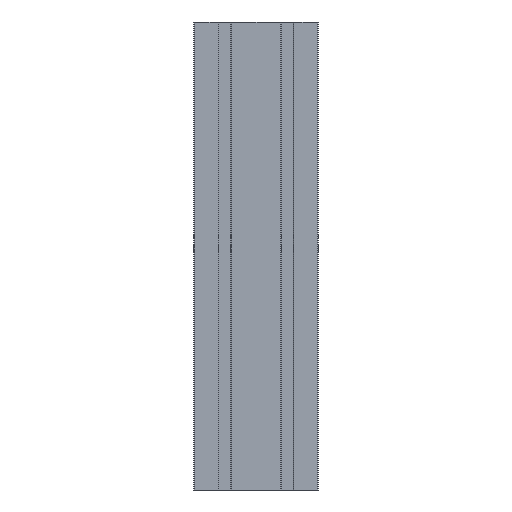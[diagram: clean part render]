
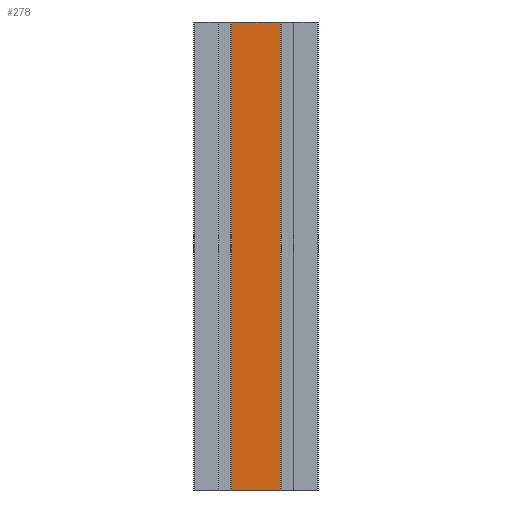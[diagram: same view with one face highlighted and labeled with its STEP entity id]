
A CAD part, front view. The second image highlights one B-rep face of the part: STEP entity #278.
In plain terms, the highlighted planar face has unit normal (0, -1, 0).
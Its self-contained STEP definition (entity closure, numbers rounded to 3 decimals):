
#64 = PLANE ( 'NONE',  #2439 ) ;
#230 = EDGE_CURVE ( 'NONE', #3836, #3080, #1386, .T. ) ;
#278 = ADVANCED_FACE ( 'NONE', ( #2946 ), #64, .F. ) ;
#430 = ORIENTED_EDGE ( 'NONE', *, *, #2381, .T. ) ;
#534 = EDGE_CURVE ( 'NONE', #2770, #1148, #2170, .T. ) ;
#577 = DIRECTION ( 'NONE',  ( 0., 0., -1. ) ) ;
#984 = CARTESIAN_POINT ( 'NONE',  ( -15.7, -10., 150. ) ) ;
#1148 = VERTEX_POINT ( 'NONE', #3043 ) ;
#1169 = CARTESIAN_POINT ( 'NONE',  ( 15.7, -10., 150. ) ) ;
#1191 = EDGE_CURVE ( 'NONE', #3836, #2770, #2447, .T. ) ;
#1239 = VECTOR ( 'NONE', #1359, 1000. ) ;
#1320 = VECTOR ( 'NONE', #1485, 1000. ) ;
#1359 = DIRECTION ( 'NONE',  ( 0., 0., -1. ) ) ;
#1386 = LINE ( 'NONE', #984, #2355 ) ;
#1485 = DIRECTION ( 'NONE',  ( 1., 0., 0. ) ) ;
#1637 = DIRECTION ( 'NONE',  ( 1., 0., 0. ) ) ;
#1769 = CARTESIAN_POINT ( 'NONE',  ( 15.7, -10., 150. ) ) ;
#1872 = CARTESIAN_POINT ( 'NONE',  ( -15.7, -10., 150. ) ) ;
#1889 = CARTESIAN_POINT ( 'NONE',  ( -15.7, -10., -150. ) ) ;
#2034 = CARTESIAN_POINT ( 'NONE',  ( -15.7, -10., 150. ) ) ;
#2170 = LINE ( 'NONE', #1769, #1239 ) ;
#2226 = ORIENTED_EDGE ( 'NONE', *, *, #534, .F. ) ;
#2262 = CARTESIAN_POINT ( 'NONE',  ( -15.7, -10., -150. ) ) ;
#2288 = LINE ( 'NONE', #1889, #1320 ) ;
#2355 = VECTOR ( 'NONE', #577, 1000. ) ;
#2381 = EDGE_CURVE ( 'NONE', #3080, #1148, #2288, .T. ) ;
#2439 = AXIS2_PLACEMENT_3D ( 'NONE', #3605, #3215, #2820 ) ;
#2446 = EDGE_LOOP ( 'NONE', ( #430, #2226, #3199, #3060 ) ) ;
#2447 = LINE ( 'NONE', #2034, #3037 ) ;
#2770 = VERTEX_POINT ( 'NONE', #1169 ) ;
#2820 = DIRECTION ( 'NONE',  ( 0., 0., 1. ) ) ;
#2946 = FACE_OUTER_BOUND ( 'NONE', #2446, .T. ) ;
#3037 = VECTOR ( 'NONE', #1637, 1000. ) ;
#3043 = CARTESIAN_POINT ( 'NONE',  ( 15.7, -10., -150. ) ) ;
#3060 = ORIENTED_EDGE ( 'NONE', *, *, #230, .T. ) ;
#3080 = VERTEX_POINT ( 'NONE', #2262 ) ;
#3199 = ORIENTED_EDGE ( 'NONE', *, *, #1191, .F. ) ;
#3215 = DIRECTION ( 'NONE',  ( 0., 1., 0. ) ) ;
#3605 = CARTESIAN_POINT ( 'NONE',  ( -15.7, -10., 150. ) ) ;
#3836 = VERTEX_POINT ( 'NONE', #1872 ) ;
